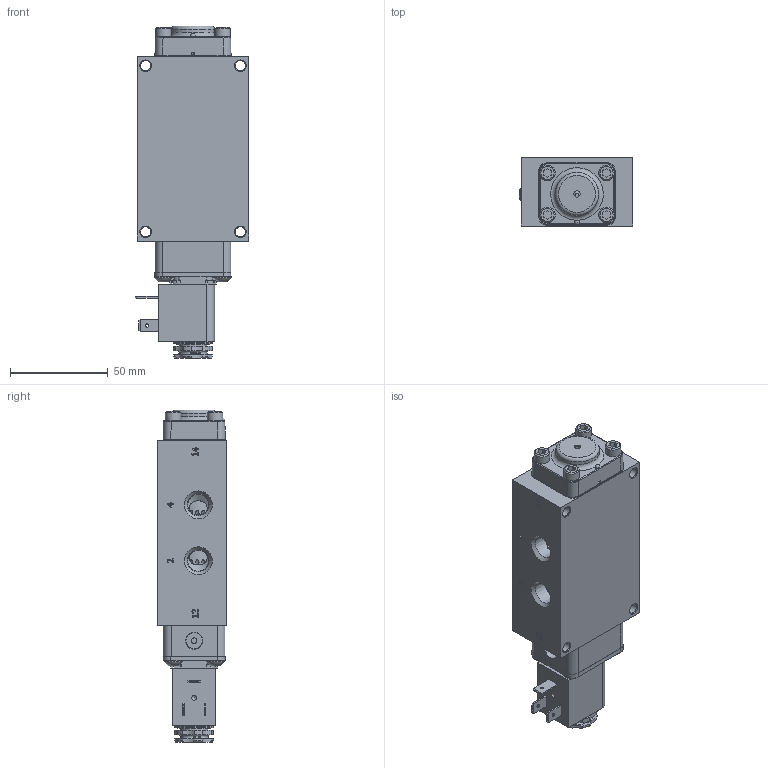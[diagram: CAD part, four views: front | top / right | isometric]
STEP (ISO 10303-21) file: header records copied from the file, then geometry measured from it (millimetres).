
FILE_DESCRIPTION(/* description */ (''),/* implementation_level */ '2;1');
FILE_NAME(/* name */ 'D:\Website New\Valves\Standard\ESO\stp\ZESO2CZ.stp',/* time_stamp */ '2020-03-03T20:32:04-05:00',/* author */ ('RMcKenna'),/* organization */ (''),/* preprocessor_version */ 'ST-DEVELOPER v17',/* originating_system */ 'Autodesk Inventor 2018',/* authorisation */ '');
FILE_SCHEMA (('AUTOMOTIVE_DESIGN { 1 0 10303 214 3 1 1 }'));
Products named in the file (1): Part14
Bounding box: 58.17 x 34.92 x 169.67 mm (x, y, z)
Volume: 207067.1 mm3; surface area: 67799.3 mm2
Topology: 1 solids, 18 shells, 1559 faces, 3991 edges, 2577 vertices
Faces by surface type: plane 729, cylinder 365, cone 258, torus 115, bspline 87, sphere 5
Full cylindrical faces by diameter (mm): 1.168 x10, 1.3 x1, 1.397 x1, 1.5 x1, 1.651 x3, 2.032 x4, 2.35 x4, 2.381 x1, 2.464 x1, 2.8 x1, 2.819 x1, 3 x4, 3.048 x1, 3.175 x2, 3.4 x1, 3.683 x9, 4.191 x2, 4.394 x1, 4.826 x8, 4.953 x1, 5.15 x4, 5.156 x12, 5.5 x1, 6.553 x1, 7.29 x1, 7.938 x4, 8 x2, 8.052 x1, 8.153 x1, 8.433 x1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
Entity records: 53448 total; most frequent: CARTESIAN_POINT 13955, ORIENTED_EDGE 7950, DIRECTION 7800, EDGE_CURVE 3975, AXIS2_PLACEMENT_3D 2884, VERTEX_POINT 2577, LINE 2032, VECTOR 2032
